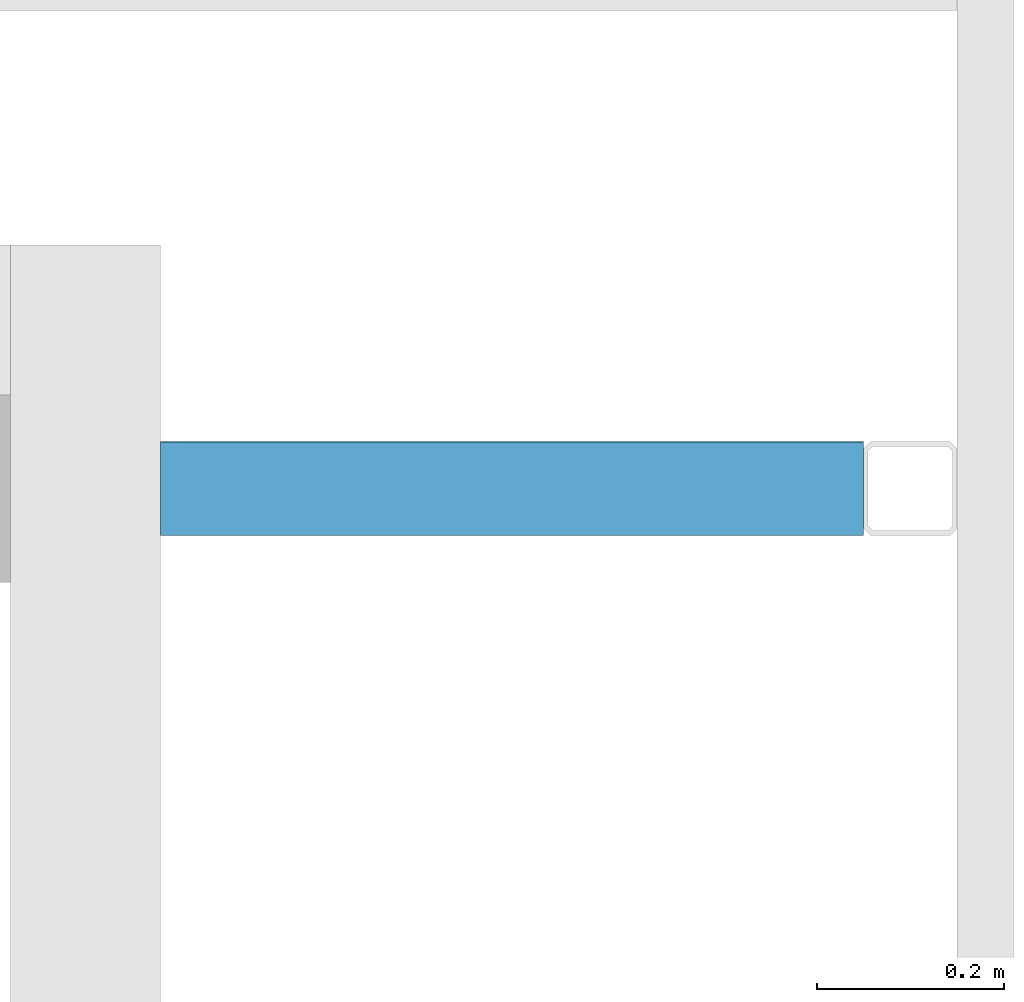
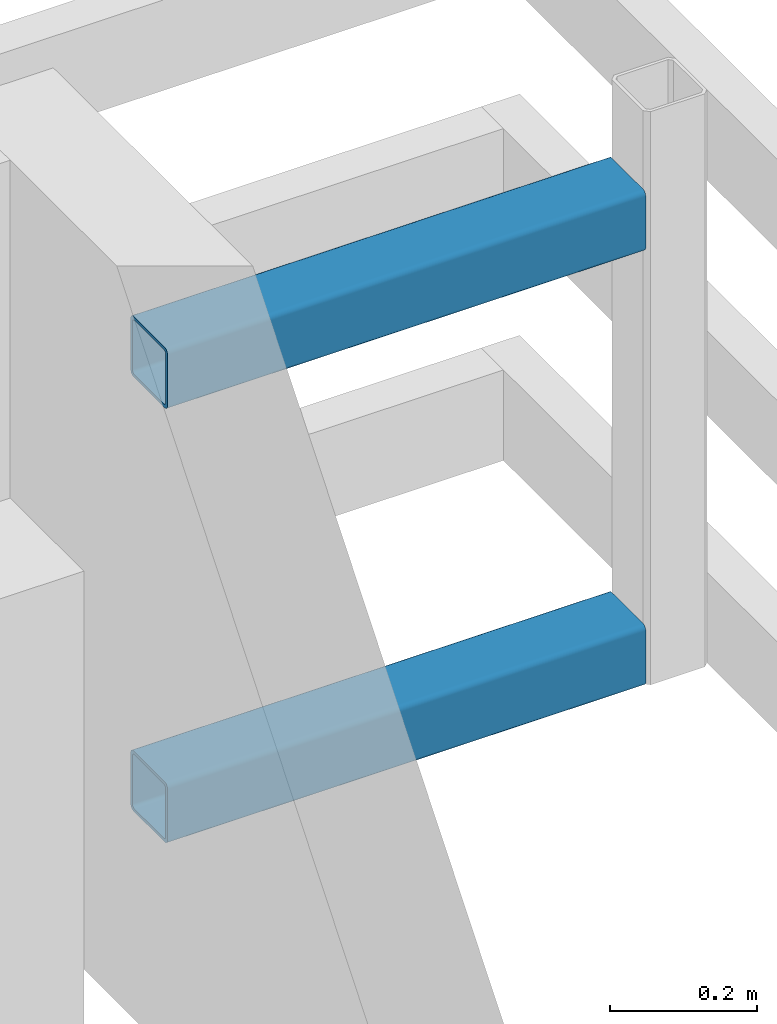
# One storey, part 43 of 44: 2 members.
"""IFC4 building model written with IfcOpenShell, lengths in metres."""

from ifc_helpers import new_model, entity, si_unit, converted_unit, derived_unit, frame, origin, place, context, subcontext, project, spatial, faceted_brep, material, element, save


model = new_model("IFC4")

# Units and contexts
model_context = context("Model", 3, precision=1e-05, world=origin())
plan_context = context("Plan", 2, precision=1e-05, world=origin())
body_context = subcontext(model_context, "Body", "Model", "MODEL_VIEW")
ifc_project = project(units=[si_unit("LENGTHUNIT", "METRE"), si_unit("AREAUNIT", "SQUARE_METRE"), si_unit("VOLUMEUNIT", "CUBIC_METRE"), si_unit("MASSUNIT", "GRAM", prefix="KILO"), converted_unit("PLANEANGLEUNIT", "DEGREE", entity("IfcPlaneAngleMeasure", 0.0174532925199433), si_unit("PLANEANGLEUNIT", "RADIAN"), dimensions=[0, 0, 0, 0, 0, 0, 0]), derived_unit("THERMALTRANSMITTANCEUNIT", [(si_unit("POWERUNIT", "WATT"), 1), (si_unit("THERMODYNAMICTEMPERATUREUNIT", "KELVIN"), -1), (si_unit("LENGTHUNIT", "METRE"), -2)]), derived_unit("VOLUMETRICFLOWRATEUNIT", [(si_unit("LENGTHUNIT", "METRE"), 3), (converted_unit("TIMEUNIT", "hour", entity("IfcTimeMeasure", 3600.0), si_unit("TIMEUNIT", "SECOND"), dimensions=[0, 0, 1, 0, 0, 0, 0]), -1), (si_unit("LENGTHUNIT", "METRE"), -1)])], contexts=[model_context, plan_context])

# Site, building, storey
site_placement = place(None, origin())
site = spatial("IfcSite", under=ifc_project, at=site_placement, Name="Site", CompositionType="ELEMENT")
building_placement = place(site_placement, origin())
building = spatial("IfcBuilding", under=site, at=building_placement, Name="Admin", CompositionType="ELEMENT")
storey_placement = place(building_placement, frame((0.0, 0.0, 3.25)))
storey = spatial("IfcBuildingStorey", under=building, at=storey_placement, Name="01-Etage1", CompositionType="ELEMENT", Elevation=3.25)

# Members
ifc_material_1 = material(Name="S235")
member_1_placement = place(storey_placement, frame((58.2197996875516, 22.0394493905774, 3.54)))
element("IfcMember", 1, at=member_1_placement, inside=storey, material=ifc_material_1, Name="Bandeau R+1", context=body_context, shape_type="Brep", body=[
    faceted_brep([(0.750000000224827, 0.0950000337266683, 0.09), (0.750000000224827, 0.0950000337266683, 0.01), (2.24841642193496e-10, 0.095, 0.01), (2.24841642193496e-10, 0.095, 0.09), (0.750000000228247, 0.094924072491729, 0.0908682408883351), (2.28261342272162e-10, 0.0949240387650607, 0.0908682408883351), (0.75000000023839, 0.0946984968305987, 0.0917101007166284), (2.38404027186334e-10, 0.0946984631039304, 0.0917101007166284), (0.750000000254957, 0.0943301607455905, 0.0925), (2.5497138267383e-10, 0.0943301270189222, 0.0925), (0.750000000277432, 0.0938302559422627, 0.0932139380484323), (2.77446815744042e-10, 0.0938302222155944, 0.0932139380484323), (0.750000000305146, 0.0932139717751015, 0.0938302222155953), (3.05160938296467e-10, 0.0932139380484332, 0.0938302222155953), (0.750000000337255, 0.0925000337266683, 0.0943301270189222), (3.37269739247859e-10, 0.0925, 0.0943301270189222), (0.750000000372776, 0.0917101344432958, 0.0946984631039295), (3.72790964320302e-10, 0.0917101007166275, 0.0946984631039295), (0.750000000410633, 0.0908682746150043, 0.0949240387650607), (4.10647771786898e-10, 0.090868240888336, 0.0949240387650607), (0.750000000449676, 0.0900000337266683, 0.095), (4.49690560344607e-10, 0.09, 0.095), (0.750000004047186, 0.0100000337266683, 0.095), (4.04720049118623e-09, 0.01, 0.095), (0.750000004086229, 0.00913179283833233, 0.0949240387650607), (4.08624327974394e-09, 0.009131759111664, 0.0949240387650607), (0.750000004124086, 0.00828993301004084, 0.0946984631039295), (4.12410008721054e-09, 0.00828989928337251, 0.0946984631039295), (0.750000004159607, 0.00750003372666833, 0.0943301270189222), (4.15962131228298e-09, 0.0075, 0.0943301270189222), (0.750000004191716, 0.00678609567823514, 0.0938302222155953), (4.19173011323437e-09, 0.00678606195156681, 0.0938302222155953), (0.75000000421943, 0.00616981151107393, 0.0932139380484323), (4.2194442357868e-09, 0.0061697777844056, 0.0932139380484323), (0.750000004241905, 0.00566990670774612, 0.0925), (4.24191966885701e-09, 0.00566987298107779, 0.0925), (0.750000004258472, 0.00530157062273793, 0.0917101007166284), (4.2584870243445e-09, 0.00530153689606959, 0.0917101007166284), (0.750000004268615, 0.00507599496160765, 0.0908682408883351), (4.26862970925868e-09, 0.00507596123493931, 0.0908682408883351), (0.750000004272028, 0.00500003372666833, 0.09), (4.27204213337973e-09, 0.005, 0.09), (0.750000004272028, 0.00500003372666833, 0.01), (4.27204213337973e-09, 0.005, 0.01), (0.750000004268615, 0.00507599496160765, 0.00913175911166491), (4.26862970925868e-09, 0.00507596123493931, 0.00913175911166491), (0.750000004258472, 0.00530157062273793, 0.0082898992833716), (4.2584870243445e-09, 0.00530153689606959, 0.0082898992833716), (0.750000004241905, 0.00566990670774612, 0.0075), (4.24191966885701e-09, 0.00566987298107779, 0.0075), (0.75000000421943, 0.00616981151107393, 0.00678606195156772), (4.2194442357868e-09, 0.0061697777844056, 0.00678606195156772), (0.750000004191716, 0.00678609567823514, 0.00616977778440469), (4.19173011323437e-09, 0.00678606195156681, 0.00616977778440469), (0.750000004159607, 0.00750003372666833, 0.00566987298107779), (4.15962131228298e-09, 0.0075, 0.00566987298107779), (0.750000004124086, 0.00828993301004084, 0.0053015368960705), (4.12410008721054e-09, 0.00828989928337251, 0.0053015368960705), (0.750000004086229, 0.00913179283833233, 0.00507596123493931), (4.08624327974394e-09, 0.009131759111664, 0.00507596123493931), (0.750000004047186, 0.0100000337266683, 0.005), (4.04720049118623e-09, 0.01, 0.005), (0.750000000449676, 0.0900000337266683, 0.005), (4.49690560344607e-10, 0.09, 0.005), (0.750000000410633, 0.0908682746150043, 0.00507596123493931), (4.10647771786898e-10, 0.090868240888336, 0.00507596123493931), (0.750000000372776, 0.0917101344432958, 0.0053015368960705), (3.72790964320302e-10, 0.0917101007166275, 0.0053015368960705), (0.750000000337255, 0.0925000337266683, 0.00566987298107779), (3.37269739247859e-10, 0.0925, 0.00566987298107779), (0.750000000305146, 0.0932139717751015, 0.00616977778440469), (3.05160938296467e-10, 0.0932139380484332, 0.00616977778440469), (0.750000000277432, 0.0938302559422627, 0.00678606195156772), (2.77446815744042e-10, 0.0938302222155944, 0.00678606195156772), (0.750000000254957, 0.0943301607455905, 0.0075), (2.5497138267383e-10, 0.0943301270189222, 0.0075), (0.75000000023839, 0.0946984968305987, 0.0082898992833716), (2.38404027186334e-10, 0.0946984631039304, 0.0082898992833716), (0.750000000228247, 0.094924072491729, 0.00913175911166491), (2.28261342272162e-10, 0.0949240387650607, 0.00913175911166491), (0.750000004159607, 0.00750003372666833, 0.1), (0.750000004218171, 0.00619767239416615, 0.0998860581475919), (4.21818549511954e-09, 0.00619763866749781, 0.0998860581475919), (4.15962131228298e-09, 0.0075, 0.1), (0.750000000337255, 0.0925000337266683, 0.1), (3.37269739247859e-10, 0.0925, 0.1), (0.750000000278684, 0.0938023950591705, 0.0998860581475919), (2.78698280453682e-10, 0.0938023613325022, 0.0998860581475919), (0.750000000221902, 0.0950651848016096, 0.0995476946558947), (2.21916707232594e-10, 0.0950651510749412, 0.0995476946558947), (0.75000000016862, 0.0962500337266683, 0.0989951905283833), (1.68634869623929e-10, 0.09625, 0.0989951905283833), (0.750000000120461, 0.0973209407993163, 0.0982453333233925), (1.20475306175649e-10, 0.097320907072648, 0.0982453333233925), (0.750000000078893, 0.0982453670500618, 0.0973209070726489), (7.89077603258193e-11, 0.0982453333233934, 0.0973209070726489), (0.750000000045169, 0.0989952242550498, 0.09625), (4.51836967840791e-11, 0.0989951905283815, 0.09625), (0.750000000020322, 0.099547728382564, 0.0950651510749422), (2.03363015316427e-11, 0.0995476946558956, 0.0950651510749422), (0.750000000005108, 0.0998860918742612, 0.0938023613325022), (5.12227416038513e-12, 0.0998860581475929, 0.0938023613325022), (0.749999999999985, 0.100000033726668, 0.0925), (0.0, 0.1, 0.0925), (0.750000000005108, 0.0998860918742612, 0.00619763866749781), (0.749999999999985, 0.100000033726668, 0.0075), (0.0, 0.1, 0.0075), (5.12227416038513e-12, 0.0998860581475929, 0.00619763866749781), (0.750000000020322, 0.099547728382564, 0.00493484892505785), (2.03363015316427e-11, 0.0995476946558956, 0.00493484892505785), (0.750000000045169, 0.0989952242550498, 0.00375), (4.51836967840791e-11, 0.0989951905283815, 0.00375), (0.750000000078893, 0.0982453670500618, 0.00267909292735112), (7.89077603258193e-11, 0.0982453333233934, 0.00267909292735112), (0.750000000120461, 0.0973209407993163, 0.00175466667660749), (1.20475306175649e-10, 0.097320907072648, 0.00175466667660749), (0.75000000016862, 0.0962500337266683, 0.00100480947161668), (1.68634869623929e-10, 0.09625, 0.00100480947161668), (0.750000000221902, 0.0950651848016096, 0.000452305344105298), (2.21916707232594e-10, 0.0950651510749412, 0.000452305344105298), (0.750000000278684, 0.0938023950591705, 0.000113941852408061), (2.78698280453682e-10, 0.0938023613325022, 0.000113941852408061), (0.750000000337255, 0.0925000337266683, 0.0), (3.37269739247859e-10, 0.0925, 0.0), (0.750000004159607, 0.00750003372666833, 0.0), (4.15962131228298e-09, 0.0075, 0.0), (0.750000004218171, 0.00619767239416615, 0.000113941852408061), (4.21818549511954e-09, 0.00619763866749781, 0.000113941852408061), (0.75000000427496, 0.00493488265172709, 0.000452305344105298), (4.27497434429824e-09, 0.00493484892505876, 0.000452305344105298), (0.750000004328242, 0.00375003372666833, 0.00100480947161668), (4.32825618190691e-09, 0.00375, 0.00100480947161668), (0.750000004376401, 0.00267912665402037, 0.00175466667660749), (4.37641574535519e-09, 0.00267909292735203, 0.00175466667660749), (0.750000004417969, 0.00175470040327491, 0.00267909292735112), (4.41798329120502e-09, 0.00175466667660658, 0.00267909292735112), (0.750000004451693, 0.00100484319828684, 0.00375), (4.45170735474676e-09, 0.0010048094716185, 0.00375), (0.750000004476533, 0.000452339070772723, 0.00493484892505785), (4.47654747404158e-09, 0.000452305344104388, 0.00493484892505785), (0.750000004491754, 0.000113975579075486, 0.00619763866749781), (4.49176877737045e-09, 0.000113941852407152, 0.00619763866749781), (0.750000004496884, 3.37266683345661e-08, 0.0075), (4.49689105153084e-09, 0.0, 0.0075), (0.750000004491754, 0.000113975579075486, 0.0938023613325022), (0.750000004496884, 3.37266683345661e-08, 0.0925), (4.49689105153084e-09, 0.0, 0.0925), (4.49176877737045e-09, 0.000113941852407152, 0.0938023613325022), (0.750000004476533, 0.000452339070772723, 0.0950651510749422), (4.47654747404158e-09, 0.000452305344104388, 0.0950651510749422), (0.750000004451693, 0.00100484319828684, 0.09625), (4.45170735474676e-09, 0.0010048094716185, 0.09625), (0.750000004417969, 0.00175470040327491, 0.0973209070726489), (4.41798329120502e-09, 0.00175466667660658, 0.0973209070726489), (0.750000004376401, 0.00267912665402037, 0.0982453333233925), (4.37641574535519e-09, 0.00267909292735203, 0.0982453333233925), (0.750000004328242, 0.00375003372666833, 0.0989951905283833), (4.32825618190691e-09, 0.00375, 0.0989951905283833), (0.75000000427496, 0.00493488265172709, 0.0995476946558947), (4.27497434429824e-09, 0.00493484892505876, 0.0995476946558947)], [[[0, 1, 2, 3]], [[4, 0, 3, 5]], [[6, 4, 5, 7]], [[8, 6, 7, 9]], [[10, 8, 9, 11]], [[12, 10, 11, 13]], [[14, 12, 13, 15]], [[16, 14, 15, 17]], [[18, 16, 17, 19]], [[20, 18, 19, 21]], [[22, 20, 21, 23]], [[24, 22, 23, 25]], [[26, 24, 25, 27]], [[28, 26, 27, 29]], [[30, 28, 29, 31]], [[32, 30, 31, 33]], [[34, 32, 33, 35]], [[36, 34, 35, 37]], [[38, 36, 37, 39]], [[40, 38, 39, 41]], [[42, 40, 41, 43]], [[44, 42, 43, 45]], [[46, 44, 45, 47]], [[48, 46, 47, 49]], [[50, 48, 49, 51]], [[52, 50, 51, 53]], [[54, 52, 53, 55]], [[56, 54, 55, 57]], [[58, 56, 57, 59]], [[60, 58, 59, 61]], [[62, 60, 61, 63]], [[64, 62, 63, 65]], [[66, 64, 65, 67]], [[68, 66, 67, 69]], [[70, 68, 69, 71]], [[72, 70, 71, 73]], [[74, 72, 73, 75]], [[76, 74, 75, 77]], [[78, 76, 77, 79]], [[1, 78, 79, 2]], [[80, 81, 82, 83]], [[84, 80, 83, 85]], [[86, 84, 85, 87]], [[88, 86, 87, 89]], [[90, 88, 89, 91]], [[92, 90, 91, 93]], [[94, 92, 93, 95]], [[96, 94, 95, 97]], [[98, 96, 97, 99]], [[100, 98, 99, 101]], [[102, 100, 101, 103]], [[104, 105, 106, 107]], [[108, 104, 107, 109]], [[110, 108, 109, 111]], [[112, 110, 111, 113]], [[114, 112, 113, 115]], [[116, 114, 115, 117]], [[118, 116, 117, 119]], [[120, 118, 119, 121]], [[122, 120, 121, 123]], [[124, 122, 123, 125]], [[126, 124, 125, 127]], [[128, 126, 127, 129]], [[130, 128, 129, 131]], [[132, 130, 131, 133]], [[134, 132, 133, 135]], [[136, 134, 135, 137]], [[138, 136, 137, 139]], [[140, 138, 139, 141]], [[142, 140, 141, 143]], [[144, 145, 146, 147]], [[148, 144, 147, 149]], [[150, 148, 149, 151]], [[152, 150, 151, 153]], [[154, 152, 153, 155]], [[156, 154, 155, 157]], [[158, 156, 157, 159]], [[81, 158, 159, 82]], [[146, 143, 141, 139, 137, 135, 133, 131, 129, 127, 125, 123, 121, 119, 117, 115, 113, 111, 109, 107, 106, 103, 101, 99, 97, 95, 93, 91, 89, 87, 85, 83, 82, 159, 157, 155, 153, 151, 149, 147], [2, 79, 77, 75, 73, 71, 69, 67, 65, 63, 61, 59, 57, 55, 53, 51, 49, 47, 45, 43, 41, 39, 37, 35, 33, 31, 29, 27, 25, 23, 21, 19, 17, 15, 13, 11, 9, 7, 5, 3]], [[103, 106, 105, 102]], [[102, 105, 104, 108, 110, 112, 114, 116, 118, 120, 122, 124, 126, 128, 130, 132, 134, 136, 138, 140, 142, 145, 144, 148, 150, 152, 154, 156, 158, 81, 80, 84, 86, 88, 90, 92, 94, 96, 98, 100], [1, 0, 4, 6, 8, 10, 12, 14, 16, 18, 20, 22, 24, 26, 28, 30, 32, 34, 36, 38, 40, 42, 44, 46, 48, 50, 52, 54, 56, 58, 60, 62, 64, 66, 68, 70, 72, 74, 76, 78]], [[145, 142, 143, 146]]], orient=[[False], [False], [False], [False], [False], [False], [False], [False], [False], [False], [False], [False], [False], [False], [False], [False], [False], [False], [False], [False], [False], [False], [False], [False], [False], [False], [False], [False], [False], [False], [False], [False], [False], [False], [False], [False], [False], [False], [False], [False], [False], [False], [False], [False], [False], [False], [False], [False], [False], [False], [False], [False], [False], [False], [False], [False], [False], [False], [False], [False], [False], [False], [False], [False], [False], [False], [False], [False], [False], [False], [False], [False], [False], [False], [False], [False], [False], [False], [False, False], [False], [False, False], [False]]),
])
ifc_material_2 = material(Name="S235")
member_2_placement = place(storey_placement, frame((58.2197996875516, 22.0394493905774, 2.82)))
element("IfcMember", 2, at=member_2_placement, inside=storey, material=ifc_material_2, Name="Bandeau R+1", context=body_context, shape_type="Brep", body=[
    faceted_brep([(0.750000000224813, 0.0950000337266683, 0.09), (0.750000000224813, 0.0950000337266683, 0.01), (2.24841642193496e-10, 0.095, 0.01), (2.24841642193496e-10, 0.095, 0.09), (0.750000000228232, 0.094924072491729, 0.0908682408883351), (2.28261342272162e-10, 0.0949240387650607, 0.0908682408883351), (0.750000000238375, 0.0946984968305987, 0.0917101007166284), (2.38404027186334e-10, 0.0946984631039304, 0.0917101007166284), (0.750000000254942, 0.0943301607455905, 0.0925), (2.5497138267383e-10, 0.0943301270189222, 0.0925), (0.750000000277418, 0.0938302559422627, 0.0932139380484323), (2.77446815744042e-10, 0.0938302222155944, 0.0932139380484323), (0.750000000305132, 0.0932139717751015, 0.0938302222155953), (3.05160938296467e-10, 0.0932139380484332, 0.0938302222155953), (0.750000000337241, 0.0925000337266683, 0.0943301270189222), (3.37269739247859e-10, 0.0925, 0.0943301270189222), (0.750000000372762, 0.0917101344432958, 0.0946984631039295), (3.72790964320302e-10, 0.0917101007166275, 0.0946984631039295), (0.750000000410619, 0.0908682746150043, 0.0949240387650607), (4.10647771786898e-10, 0.090868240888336, 0.0949240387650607), (0.750000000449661, 0.0900000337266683, 0.095), (4.49690560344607e-10, 0.09, 0.095), (0.750000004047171, 0.0100000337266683, 0.095), (4.04720049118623e-09, 0.01, 0.095), (0.750000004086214, 0.00913179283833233, 0.0949240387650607), (4.08624327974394e-09, 0.009131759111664, 0.0949240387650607), (0.750000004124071, 0.00828993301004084, 0.0946984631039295), (4.12410008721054e-09, 0.00828989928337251, 0.0946984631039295), (0.750000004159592, 0.00750003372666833, 0.0943301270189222), (4.15962131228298e-09, 0.0075, 0.0943301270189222), (0.750000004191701, 0.00678609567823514, 0.0938302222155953), (4.19173011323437e-09, 0.00678606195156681, 0.0938302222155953), (0.750000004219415, 0.00616981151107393, 0.0932139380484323), (4.2194442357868e-09, 0.0061697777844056, 0.0932139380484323), (0.750000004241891, 0.00566990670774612, 0.0925), (4.24191966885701e-09, 0.00566987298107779, 0.0925), (0.750000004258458, 0.00530157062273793, 0.0917101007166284), (4.2584870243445e-09, 0.00530153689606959, 0.0917101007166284), (0.750000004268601, 0.00507599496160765, 0.0908682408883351), (4.26862970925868e-09, 0.00507596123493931, 0.0908682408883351), (0.750000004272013, 0.00500003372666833, 0.09), (4.27204213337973e-09, 0.005, 0.09), (0.750000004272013, 0.00500003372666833, 0.01), (4.27204213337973e-09, 0.005, 0.01), (0.750000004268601, 0.00507599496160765, 0.00913175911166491), (4.26862970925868e-09, 0.00507596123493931, 0.00913175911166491), (0.750000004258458, 0.00530157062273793, 0.0082898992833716), (4.2584870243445e-09, 0.00530153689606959, 0.0082898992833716), (0.750000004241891, 0.00566990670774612, 0.0075), (4.24191966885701e-09, 0.00566987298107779, 0.0075), (0.750000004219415, 0.00616981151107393, 0.00678606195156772), (4.2194442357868e-09, 0.0061697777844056, 0.00678606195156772), (0.750000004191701, 0.00678609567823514, 0.00616977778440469), (4.19173011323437e-09, 0.00678606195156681, 0.00616977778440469), (0.750000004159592, 0.00750003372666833, 0.00566987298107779), (4.15962131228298e-09, 0.0075, 0.00566987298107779), (0.750000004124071, 0.00828993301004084, 0.0053015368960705), (4.12410008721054e-09, 0.00828989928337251, 0.0053015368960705), (0.750000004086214, 0.00913179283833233, 0.00507596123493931), (4.08624327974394e-09, 0.009131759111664, 0.00507596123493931), (0.750000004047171, 0.0100000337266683, 0.005), (4.04720049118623e-09, 0.01, 0.005), (0.750000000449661, 0.0900000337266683, 0.005), (4.49690560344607e-10, 0.09, 0.005), (0.750000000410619, 0.0908682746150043, 0.00507596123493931), (4.10647771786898e-10, 0.090868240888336, 0.00507596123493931), (0.750000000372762, 0.0917101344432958, 0.0053015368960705), (3.72790964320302e-10, 0.0917101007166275, 0.0053015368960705), (0.750000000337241, 0.0925000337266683, 0.00566987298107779), (3.37269739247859e-10, 0.0925, 0.00566987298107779), (0.750000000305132, 0.0932139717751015, 0.00616977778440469), (3.05160938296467e-10, 0.0932139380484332, 0.00616977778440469), (0.750000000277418, 0.0938302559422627, 0.00678606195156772), (2.77446815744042e-10, 0.0938302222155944, 0.00678606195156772), (0.750000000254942, 0.0943301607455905, 0.0075), (2.5497138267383e-10, 0.0943301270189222, 0.0075), (0.750000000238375, 0.0946984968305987, 0.0082898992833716), (2.38404027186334e-10, 0.0946984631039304, 0.0082898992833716), (0.750000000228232, 0.094924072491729, 0.00913175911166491), (2.28261342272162e-10, 0.0949240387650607, 0.00913175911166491), (0.750000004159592, 0.00750003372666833, 0.1), (0.750000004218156, 0.00619767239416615, 0.0998860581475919), (4.21818549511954e-09, 0.00619763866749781, 0.0998860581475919), (4.15962131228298e-09, 0.0075, 0.1), (0.750000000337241, 0.0925000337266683, 0.1), (3.37269739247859e-10, 0.0925, 0.1), (0.750000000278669, 0.0938023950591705, 0.0998860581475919), (2.78698280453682e-10, 0.0938023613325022, 0.0998860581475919), (0.750000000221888, 0.0950651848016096, 0.0995476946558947), (2.21916707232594e-10, 0.0950651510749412, 0.0995476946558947), (0.750000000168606, 0.0962500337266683, 0.0989951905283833), (1.68634869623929e-10, 0.09625, 0.0989951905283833), (0.750000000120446, 0.0973209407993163, 0.0982453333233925), (1.20475306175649e-10, 0.097320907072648, 0.0982453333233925), (0.750000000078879, 0.0982453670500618, 0.0973209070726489), (7.89077603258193e-11, 0.0982453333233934, 0.0973209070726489), (0.750000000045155, 0.0989952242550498, 0.09625), (4.51836967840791e-11, 0.0989951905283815, 0.09625), (0.750000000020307, 0.099547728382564, 0.0950651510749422), (2.03363015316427e-11, 0.0995476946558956, 0.0950651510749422), (0.750000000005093, 0.0998860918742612, 0.0938023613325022), (5.12227416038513e-12, 0.0998860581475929, 0.0938023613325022), (0.749999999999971, 0.100000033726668, 0.0925), (0.0, 0.1, 0.0925), (0.750000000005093, 0.0998860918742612, 0.00619763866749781), (0.749999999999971, 0.100000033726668, 0.0075), (0.0, 0.1, 0.0075), (5.12227416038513e-12, 0.0998860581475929, 0.00619763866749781), (0.750000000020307, 0.099547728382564, 0.00493484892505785), (2.03363015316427e-11, 0.0995476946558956, 0.00493484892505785), (0.750000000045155, 0.0989952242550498, 0.00375), (4.51836967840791e-11, 0.0989951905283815, 0.00375), (0.750000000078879, 0.0982453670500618, 0.00267909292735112), (7.89077603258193e-11, 0.0982453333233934, 0.00267909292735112), (0.750000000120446, 0.0973209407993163, 0.00175466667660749), (1.20475306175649e-10, 0.097320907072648, 0.00175466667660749), (0.750000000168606, 0.0962500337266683, 0.00100480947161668), (1.68634869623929e-10, 0.09625, 0.00100480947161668), (0.750000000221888, 0.0950651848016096, 0.000452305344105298), (2.21916707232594e-10, 0.0950651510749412, 0.000452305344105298), (0.750000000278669, 0.0938023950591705, 0.000113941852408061), (2.78698280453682e-10, 0.0938023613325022, 0.000113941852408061), (0.750000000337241, 0.0925000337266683, 0.0), (3.37269739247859e-10, 0.0925, 0.0), (0.750000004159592, 0.00750003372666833, 0.0), (4.15962131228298e-09, 0.0075, 0.0), (0.750000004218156, 0.00619767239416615, 0.000113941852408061), (4.21818549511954e-09, 0.00619763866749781, 0.000113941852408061), (0.750000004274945, 0.00493488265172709, 0.000452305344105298), (4.27497434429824e-09, 0.00493484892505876, 0.000452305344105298), (0.750000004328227, 0.00375003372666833, 0.00100480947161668), (4.32825618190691e-09, 0.00375, 0.00100480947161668), (0.750000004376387, 0.00267912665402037, 0.00175466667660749), (4.37641574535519e-09, 0.00267909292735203, 0.00175466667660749), (0.750000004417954, 0.00175470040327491, 0.00267909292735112), (4.41798329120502e-09, 0.00175466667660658, 0.00267909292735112), (0.750000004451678, 0.00100484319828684, 0.00375), (4.45170735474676e-09, 0.0010048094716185, 0.00375), (0.750000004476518, 0.000452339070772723, 0.00493484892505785), (4.47654747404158e-09, 0.000452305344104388, 0.00493484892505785), (0.75000000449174, 0.000113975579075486, 0.00619763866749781), (4.49176877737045e-09, 0.000113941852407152, 0.00619763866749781), (0.750000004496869, 3.37266683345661e-08, 0.0075), (4.49689105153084e-09, 0.0, 0.0075), (0.75000000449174, 0.000113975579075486, 0.0938023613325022), (0.750000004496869, 3.37266683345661e-08, 0.0925), (4.49689105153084e-09, 0.0, 0.0925), (4.49176877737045e-09, 0.000113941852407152, 0.0938023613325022), (0.750000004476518, 0.000452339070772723, 0.0950651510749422), (4.47654747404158e-09, 0.000452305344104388, 0.0950651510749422), (0.750000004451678, 0.00100484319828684, 0.09625), (4.45170735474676e-09, 0.0010048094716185, 0.09625), (0.750000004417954, 0.00175470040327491, 0.0973209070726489), (4.41798329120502e-09, 0.00175466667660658, 0.0973209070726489), (0.750000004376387, 0.00267912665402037, 0.0982453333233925), (4.37641574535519e-09, 0.00267909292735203, 0.0982453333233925), (0.750000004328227, 0.00375003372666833, 0.0989951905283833), (4.32825618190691e-09, 0.00375, 0.0989951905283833), (0.750000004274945, 0.00493488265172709, 0.0995476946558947), (4.27497434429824e-09, 0.00493484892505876, 0.0995476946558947)], [[[0, 1, 2, 3]], [[4, 0, 3, 5]], [[6, 4, 5, 7]], [[8, 6, 7, 9]], [[10, 8, 9, 11]], [[12, 10, 11, 13]], [[14, 12, 13, 15]], [[16, 14, 15, 17]], [[18, 16, 17, 19]], [[20, 18, 19, 21]], [[22, 20, 21, 23]], [[24, 22, 23, 25]], [[26, 24, 25, 27]], [[28, 26, 27, 29]], [[30, 28, 29, 31]], [[32, 30, 31, 33]], [[34, 32, 33, 35]], [[36, 34, 35, 37]], [[38, 36, 37, 39]], [[40, 38, 39, 41]], [[42, 40, 41, 43]], [[44, 42, 43, 45]], [[46, 44, 45, 47]], [[48, 46, 47, 49]], [[50, 48, 49, 51]], [[52, 50, 51, 53]], [[54, 52, 53, 55]], [[56, 54, 55, 57]], [[58, 56, 57, 59]], [[60, 58, 59, 61]], [[62, 60, 61, 63]], [[64, 62, 63, 65]], [[66, 64, 65, 67]], [[68, 66, 67, 69]], [[70, 68, 69, 71]], [[72, 70, 71, 73]], [[74, 72, 73, 75]], [[76, 74, 75, 77]], [[78, 76, 77, 79]], [[1, 78, 79, 2]], [[80, 81, 82, 83]], [[84, 80, 83, 85]], [[86, 84, 85, 87]], [[88, 86, 87, 89]], [[90, 88, 89, 91]], [[92, 90, 91, 93]], [[94, 92, 93, 95]], [[96, 94, 95, 97]], [[98, 96, 97, 99]], [[100, 98, 99, 101]], [[102, 100, 101, 103]], [[104, 105, 106, 107]], [[108, 104, 107, 109]], [[110, 108, 109, 111]], [[112, 110, 111, 113]], [[114, 112, 113, 115]], [[116, 114, 115, 117]], [[118, 116, 117, 119]], [[120, 118, 119, 121]], [[122, 120, 121, 123]], [[124, 122, 123, 125]], [[126, 124, 125, 127]], [[128, 126, 127, 129]], [[130, 128, 129, 131]], [[132, 130, 131, 133]], [[134, 132, 133, 135]], [[136, 134, 135, 137]], [[138, 136, 137, 139]], [[140, 138, 139, 141]], [[142, 140, 141, 143]], [[144, 145, 146, 147]], [[148, 144, 147, 149]], [[150, 148, 149, 151]], [[152, 150, 151, 153]], [[154, 152, 153, 155]], [[156, 154, 155, 157]], [[158, 156, 157, 159]], [[81, 158, 159, 82]], [[146, 143, 141, 139, 137, 135, 133, 131, 129, 127, 125, 123, 121, 119, 117, 115, 113, 111, 109, 107, 106, 103, 101, 99, 97, 95, 93, 91, 89, 87, 85, 83, 82, 159, 157, 155, 153, 151, 149, 147], [2, 79, 77, 75, 73, 71, 69, 67, 65, 63, 61, 59, 57, 55, 53, 51, 49, 47, 45, 43, 41, 39, 37, 35, 33, 31, 29, 27, 25, 23, 21, 19, 17, 15, 13, 11, 9, 7, 5, 3]], [[103, 106, 105, 102]], [[102, 105, 104, 108, 110, 112, 114, 116, 118, 120, 122, 124, 126, 128, 130, 132, 134, 136, 138, 140, 142, 145, 144, 148, 150, 152, 154, 156, 158, 81, 80, 84, 86, 88, 90, 92, 94, 96, 98, 100], [1, 0, 4, 6, 8, 10, 12, 14, 16, 18, 20, 22, 24, 26, 28, 30, 32, 34, 36, 38, 40, 42, 44, 46, 48, 50, 52, 54, 56, 58, 60, 62, 64, 66, 68, 70, 72, 74, 76, 78]], [[145, 142, 143, 146]]], orient=[[False], [False], [False], [False], [False], [False], [False], [False], [False], [False], [False], [False], [False], [False], [False], [False], [False], [False], [False], [False], [False], [False], [False], [False], [False], [False], [False], [False], [False], [False], [False], [False], [False], [False], [False], [False], [False], [False], [False], [False], [False], [False], [False], [False], [False], [False], [False], [False], [False], [False], [False], [False], [False], [False], [False], [False], [False], [False], [False], [False], [False], [False], [False], [False], [False], [False], [False], [False], [False], [False], [False], [False], [False], [False], [False], [False], [False], [False], [False, False], [False], [False, False], [False]]),
])

save(model, "model.ifc")
